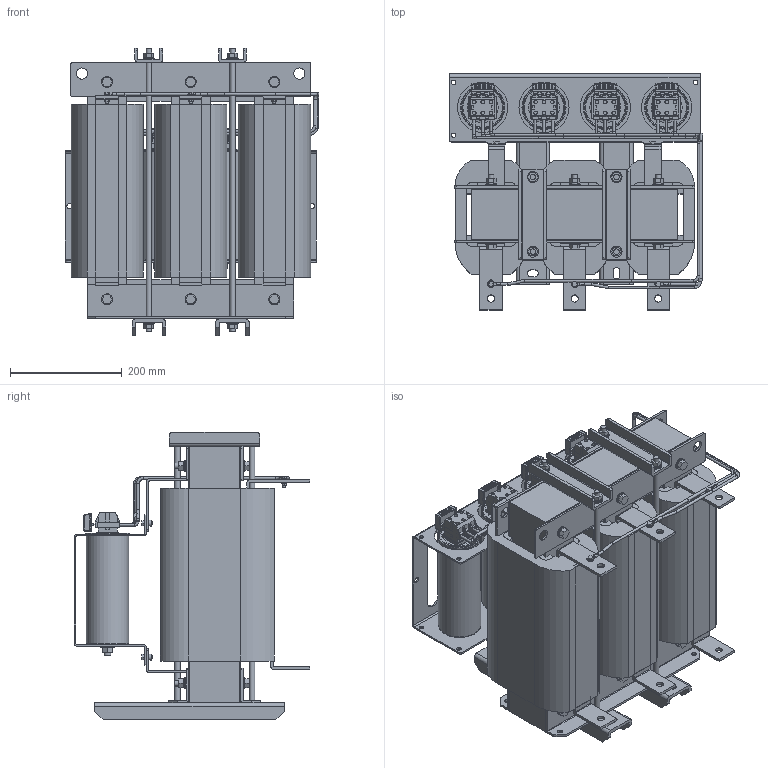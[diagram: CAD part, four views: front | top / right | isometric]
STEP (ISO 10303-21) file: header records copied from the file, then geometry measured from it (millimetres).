
FILE_DESCRIPTION (( 'STEP AP203' ), '1' );
FILE_NAME ('蔓躅漤铋 耔眢耥 翳朦蝠 _ ISINOF-185_352-4.STEP', '2026-07-20T13:18:33', ( '' ), ( '' ), 'SwSTEP 2.0', 'SolidWorks 2021', '' );
FILE_SCHEMA (( 'CONFIG_CONTROL_DESIGN' ));
Length unit declared in the file: millimetre
Products named in the file (190): 185KW淏玾疏薦疏萇蕨ん_104; 185KW淏玾疏薦疏萇蕨ん_67; 185KW淏玾疏薦疏萇蕨ん_9; 185KW淏玾疏薦疏萇蕨ん_149; 185KW淏玾疏薦疏萇蕨ん_94; 185KW淏玾疏薦疏萇蕨ん_52; 185KW淏玾疏薦疏萇蕨ん_183; 185KW淏玾疏薦疏萇蕨ん_81; 185KW淏玾疏薦疏萇蕨ん_8; 185KW淏玾疏薦疏萇蕨ん_128; 185KW淏玾疏薦疏萇蕨ん_185; 185KW淏玾疏薦疏萇蕨ん_163; 185KW淏玾疏薦疏萇蕨ん_74; 185KW淏玾疏薦疏萇蕨ん_102; 185KW淏玾疏薦疏萇蕨ん_5; 185KW淏玾疏薦疏萇蕨ん_33; 185KW淏玾疏薦疏萇蕨ん_26; 185KW淏玾疏薦疏萇蕨ん_4; 185KW淏玾疏薦疏萇蕨ん_144; 185KW淏玾疏薦疏萇蕨ん_186; 185KW淏玾疏薦疏萇蕨ん_96; 185KW淏玾疏薦疏萇蕨ん_151; 185KW淏玾疏薦疏萇蕨ん_85; 185KW淏玾疏薦疏萇蕨ん_77; 185KW淏玾疏薦疏萇蕨ん_181; 185KW淏玾疏薦疏萇蕨ん_175; 185KW淏玾疏薦疏萇蕨ん_34; 185KW淏玾疏薦疏萇蕨ん_161; 185KW淏玾疏薦疏萇蕨ん_32; 185KW淏玾疏薦疏萇蕨ん_25; 185KW淏玾疏薦疏萇蕨ん_65; 185KW淏玾疏薦疏萇蕨ん_73; 185KW淏玾疏薦疏萇蕨ん_53; 185KW淏玾疏薦疏萇蕨ん_155; 185KW淏玾疏薦疏萇蕨ん_160; 185KW淏玾疏薦疏萇蕨ん_80; 185KW淏玾疏薦疏萇蕨ん_173; 185KW淏玾疏薦疏萇蕨ん_127; 185KW淏玾疏薦疏萇蕨ん_107; 185KW淏玾疏薦疏萇蕨ん_162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
Assembly tree (189 placements, depth 2):
  蔓躅漤铋 耔眢耥 翳朦蝠 _ ISINOF-185_352-4
    185KW淏玾疏薦疏萇蕨ん_130
    185KW淏玾疏薦疏萇蕨ん_152
    185KW淏玾疏薦疏萇蕨ん_98
    185KW淏玾疏薦疏萇蕨ん_73
    185KW淏玾疏薦疏萇蕨ん_181
    185KW淏玾疏薦疏萇蕨ん_164
    185KW淏玾疏薦疏萇蕨ん_180
    185KW淏玾疏薦疏萇蕨ん
    185KW淏玾疏薦疏萇蕨ん_149
    185KW淏玾疏薦疏萇蕨ん_105
    185KW淏玾疏薦疏萇蕨ん_56
    185KW淏玾疏薦疏萇蕨ん_2
    185KW淏玾疏薦疏萇蕨ん_29
    185KW淏玾疏薦疏萇蕨ん_103
    185KW淏玾疏薦疏萇蕨ん_111
    185KW淏玾疏薦疏萇蕨ん_126
    185KW淏玾疏薦疏萇蕨ん_10
    185KW淏玾疏薦疏萇蕨ん_14
    185KW淏玾疏薦疏萇蕨ん_128
    185KW淏玾疏薦疏萇蕨ん_21
    185KW淏玾疏薦疏萇蕨ん_45
    185KW淏玾疏薦疏萇蕨ん_169
    185KW淏玾疏薦疏萇蕨ん_119
    185KW淏玾疏薦疏萇蕨ん_36
    185KW淏玾疏薦疏萇蕨ん_59
    185KW淏玾疏薦疏萇蕨ん_43
    185KW淏玾疏薦疏萇蕨ん_101
    185KW淏玾疏薦疏萇蕨ん_184
    185KW淏玾疏薦疏萇蕨ん_84
    185KW淏玾疏薦疏萇蕨ん_93
    185KW淏玾疏薦疏萇蕨ん_143
    185KW淏玾疏薦疏萇蕨ん_170
    185KW淏玾疏薦疏萇蕨ん_91
    185KW淏玾疏薦疏萇蕨ん_151
    185KW淏玾疏薦疏萇蕨ん_125
    185KW淏玾疏薦疏萇蕨ん_65
    185KW淏玾疏薦疏萇蕨ん_116
    185KW淏玾疏薦疏萇蕨ん_48
    185KW淏玾疏薦疏萇蕨ん_63
    185KW淏玾疏薦疏萇蕨ん_174
    185KW淏玾疏薦疏萇蕨ん_51
    185KW淏玾疏薦疏萇蕨ん_167
    185KW淏玾疏薦疏萇蕨ん_150
    185KW淏玾疏薦疏萇蕨ん_95
    185KW淏玾疏薦疏萇蕨ん_139
    185KW淏玾疏薦疏萇蕨ん_40
    185KW淏玾疏薦疏萇蕨ん_117
    185KW淏玾疏薦疏萇蕨ん_11
    185KW淏玾疏薦疏萇蕨ん_50
    185KW淏玾疏薦疏萇蕨ん_142
    185KW淏玾疏薦疏萇蕨ん_7
    185KW淏玾疏薦疏萇蕨ん_156
    185KW淏玾疏薦疏萇蕨ん_70
    185KW淏玾疏薦疏萇蕨ん_32
    185KW淏玾疏薦疏萇蕨ん_131
    185KW淏玾疏薦疏萇蕨ん_20
    185KW淏玾疏薦疏萇蕨ん_100
    185KW淏玾疏薦疏萇蕨ん_69
    185KW淏玾疏薦疏萇蕨ん_120
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Bounding box: 454.79 x 423 x 514.91 mm (x, y, z)
Volume: 31881121.7 mm3; surface area: 3812568.5 mm2
Topology: 189 solids, 189 shells, 2743 faces, 6910 edges, 4565 vertices
Faces by surface type: plane 1873, cylinder 763, torus 53, bspline 46, cone 8
Full cylindrical faces by diameter (mm): 4.8 x3, 5 x69, 6 x10, 6.3 x48, 6.4 x3, 7 x3, 8 x8, 9 x4, 9.6 x6, 10 x18, 11 x4, 12 x8, 13 x10, 15.588 x14, 20 x36, 24 x4, 73 x4, 76 x4, 79 x4, 90 x4
Entity records: 106637 total; most frequent: CARTESIAN_POINT 20678, DIRECTION 13297, ORIENTED_EDGE 13098, EDGE_CURVE 6549, LINE 4857, VECTOR 4857, VERTEX_POINT 4529, AXIS2_PLACEMENT_3D 4220
